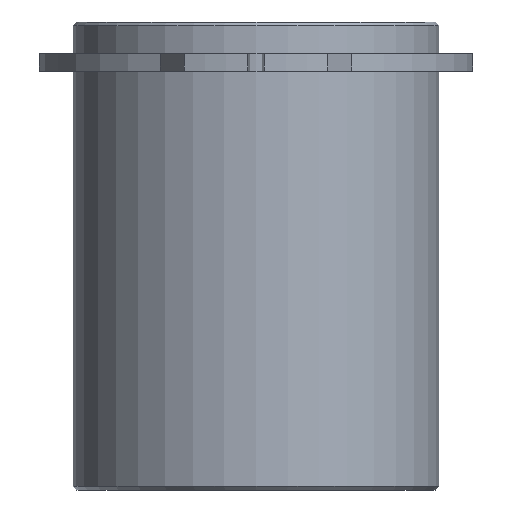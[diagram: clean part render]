
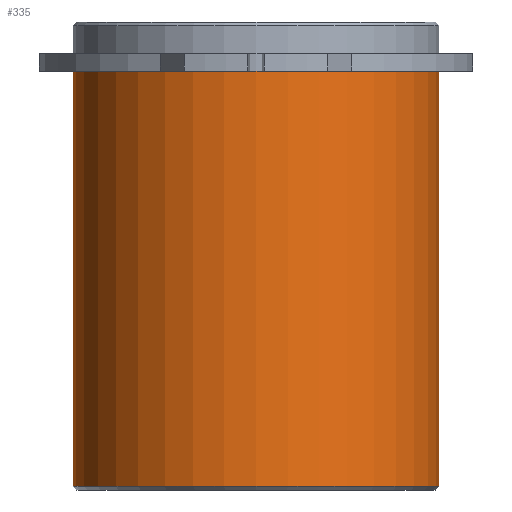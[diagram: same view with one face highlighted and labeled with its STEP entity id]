
A CAD part, front view. The second image highlights one B-rep face of the part: STEP entity #335.
In plain terms, the highlighted cylindrical face has radius 15.625 mm (diameter 31.25 mm), a partial arc.
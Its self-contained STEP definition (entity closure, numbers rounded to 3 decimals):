
#294=CARTESIAN_POINT('',(0.0,0.,-17.75));
#295=DIRECTION('',(0.0,0.,1.0));
#296=DIRECTION('',(1.0,0.0,0.0));
#297=AXIS2_PLACEMENT_3D('',#294,#295,#296);
#298=CYLINDRICAL_SURFACE('',#297,15.625);
#299=CARTESIAN_POINT('',(15.625,0.0,0.0));
#300=VERTEX_POINT('',#299);
#301=CARTESIAN_POINT('',(15.625,0.,-35.5));
#302=VERTEX_POINT('',#301);
#303=CARTESIAN_POINT('',(15.625,0.0,0.0));
#304=DIRECTION('',(0.0,0.0,-1.0));
#305=VECTOR('',#304,35.5);
#306=LINE('',#303,#305);
#307=EDGE_CURVE('',#300,#302,#306,.T.);
#308=ORIENTED_EDGE('',*,*,#307,.F.);
#309=CARTESIAN_POINT('',(-15.625,0.,0.0));
#310=VERTEX_POINT('',#309);
#311=CARTESIAN_POINT('',(0.0,0.0,0.0));
#312=DIRECTION('',(0.0,0.0,1.0));
#313=DIRECTION('',(1.0,0.0,0.0));
#314=AXIS2_PLACEMENT_3D('',#311,#312,#313);
#315=CIRCLE('',#314,15.625);
#316=EDGE_CURVE('',#310,#300,#315,.T.);
#317=ORIENTED_EDGE('',*,*,#316,.F.);
#318=CARTESIAN_POINT('',(-15.625,0.,-35.5));
#319=VERTEX_POINT('',#318);
#320=CARTESIAN_POINT('',(-15.625,0.,0.0));
#321=DIRECTION('',(0.0,0.0,-1.0));
#322=VECTOR('',#321,35.5);
#323=LINE('',#320,#322);
#324=EDGE_CURVE('',#310,#319,#323,.T.);
#325=ORIENTED_EDGE('',*,*,#324,.T.);
#326=CARTESIAN_POINT('',(0.0,0.,-35.5));
#327=DIRECTION('',(0.0,0.0,1.0));
#328=DIRECTION('',(1.0,0.0,0.0));
#329=AXIS2_PLACEMENT_3D('',#326,#327,#328);
#330=CIRCLE('',#329,15.625);
#331=EDGE_CURVE('',#319,#302,#330,.T.);
#332=ORIENTED_EDGE('',*,*,#331,.T.);
#333=EDGE_LOOP('',(#308,#317,#325,#332));
#334=FACE_OUTER_BOUND('',#333,.T.);
#335=ADVANCED_FACE('',(#334),#298,.T.);
